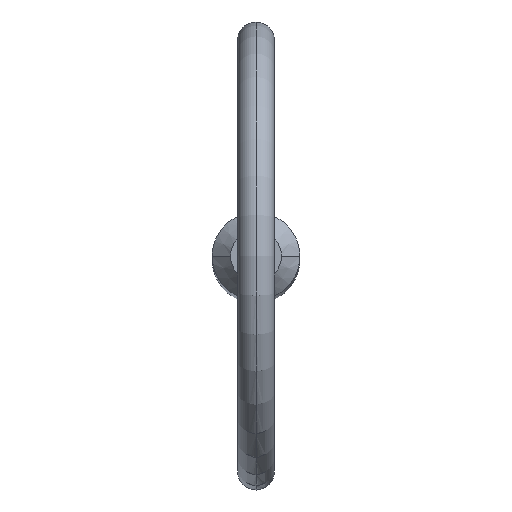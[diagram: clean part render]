
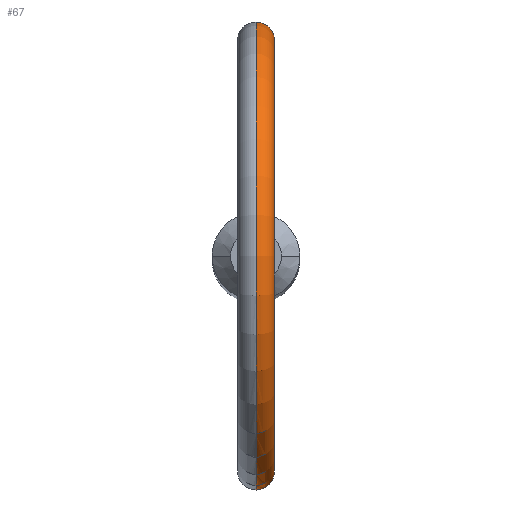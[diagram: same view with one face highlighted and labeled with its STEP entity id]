
A CAD part, top view. The second image highlights one B-rep face of the part: STEP entity #67.
In plain terms, the highlighted toroidal (fillet/blend) face has major radius 11.7 mm and minor radius 1 mm.
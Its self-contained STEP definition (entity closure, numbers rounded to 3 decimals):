
#6 = CARTESIAN_POINT ( 'NONE',  ( 0.509, 2.328, 93.524 ) ) ;
#11 = CARTESIAN_POINT ( 'NONE',  ( 0., 2.38, 91.625 ) ) ;
#15 = CARTESIAN_POINT ( 'NONE',  ( 0., 2.38, 93.668 ) ) ;
#22 = CARTESIAN_POINT ( 'NONE',  ( 0.615, -2.301, 93.444 ) ) ;
#24 = CARTESIAN_POINT ( 'NONE',  ( 0.865, -2.218, 93.14 ) ) ;
#25 = DIRECTION ( 'NONE',  ( 1., 0., 0. ) ) ;
#39 = CARTESIAN_POINT ( 'NONE',  ( 0.793, 2.246, 93.253 ) ) ;
#59 = DIRECTION ( 'NONE',  ( 0., 0., -1. ) ) ;
#67 = ADVANCED_FACE ( 'NONE', ( #365 ), #441, .T. ) ;
#76 = CARTESIAN_POINT ( 'NONE',  ( 1.003, 2.158, 92.497 ) ) ;
#90 = DIRECTION ( 'NONE',  ( 1., 0., 0. ) ) ;
#100 = CARTESIAN_POINT ( 'NONE',  ( 0.885, -2.21, 92.117 ) ) ;
#102 = CARTESIAN_POINT ( 'NONE',  ( 0.133, -2.38, 91.625 ) ) ;
#103 = B_SPLINE_CURVE_WITH_KNOTS ( 'NONE', 3,
 ( #287, #394, #178, #150, #391, #436, #182, #292, #76, #432, #219, #475, #39, #225, #6, #259, #410, #15 ),
 .UNSPECIFIED., .F., .F.,
 ( 4, 2, 2, 2, 2, 2, 2, 2, 4 ),
 ( 0.001, 0.001, 0.001, 0.002, 0.002, 0.003, 0.003, 0.003, 0.004 ),
 .UNSPECIFIED. ) ;
#109 = ORIENTED_EDGE ( 'NONE', *, *, #404, .T. ) ;
#111 = B_SPLINE_CURVE_WITH_KNOTS ( 'NONE', 3,
 ( #277, #245, #417, #145, #22, #308, #24, #173, #139, #143, #385, #100, #344, #199, #419, #309, #102, #457 ),
 .UNSPECIFIED., .F., .F.,
 ( 4, 2, 2, 2, 2, 2, 2, 2, 4 ),
 ( 0.003, 0.003, 0.003, 0.004, 0.004, 0.005, 0.005, 0.005, 0.006 ),
 .UNSPECIFIED. ) ;
#134 = VERTEX_POINT ( 'NONE', #11 ) ;
#139 = CARTESIAN_POINT ( 'NONE',  ( 0.996, -2.162, 92.764 ) ) ;
#143 = CARTESIAN_POINT ( 'NONE',  ( 1.003, -2.158, 92.499 ) ) ;
#145 = CARTESIAN_POINT ( 'NONE',  ( 0.508, -2.328, 93.524 ) ) ;
#150 = CARTESIAN_POINT ( 'NONE',  ( 0.513, 2.327, 91.749 ) ) ;
#153 = ORIENTED_EDGE ( 'NONE', *, *, #217, .F. ) ;
#158 = CIRCLE ( 'NONE', #473, 10.7 ) ;
#164 = CARTESIAN_POINT ( 'NONE',  ( 0., -2.38, 91.625 ) ) ;
#173 = CARTESIAN_POINT ( 'NONE',  ( 0.966, -2.176, 92.897 ) ) ;
#177 = ORIENTED_EDGE ( 'NONE', *, *, #295, .F. ) ;
#178 = CARTESIAN_POINT ( 'NONE',  ( 0.267, 2.368, 91.65 ) ) ;
#182 = CARTESIAN_POINT ( 'NONE',  ( 0.884, 2.21, 92.117 ) ) ;
#199 = CARTESIAN_POINT ( 'NONE',  ( 0.625, -2.299, 91.821 ) ) ;
#211 = VERTEX_POINT ( 'NONE', #164 ) ;
#217 = EDGE_CURVE ( 'NONE', #274, #211, #111, .T. ) ;
#219 = CARTESIAN_POINT ( 'NONE',  ( 0.966, 2.176, 92.897 ) ) ;
#222 = VERTEX_POINT ( 'NONE', #422 ) ;
#225 = CARTESIAN_POINT ( 'NONE',  ( 0.614, 2.301, 93.445 ) ) ;
#230 = DIRECTION ( 'NONE',  ( 1., 0., 0. ) ) ;
#245 = CARTESIAN_POINT ( 'NONE',  ( 0.134, -2.38, 93.668 ) ) ;
#255 = CIRCLE ( 'NONE', #369, 12.7 ) ;
#256 = ORIENTED_EDGE ( 'NONE', *, *, #266, .F. ) ;
#259 = CARTESIAN_POINT ( 'NONE',  ( 0.267, 2.368, 93.637 ) ) ;
#266 = EDGE_CURVE ( 'NONE', #134, #222, #103, .T. ) ;
#274 = VERTEX_POINT ( 'NONE', #380 ) ;
#277 = CARTESIAN_POINT ( 'NONE',  ( 0., -2.38, 93.668 ) ) ;
#287 = CARTESIAN_POINT ( 'NONE',  ( 0., 2.38, 91.625 ) ) ;
#291 = AXIS2_PLACEMENT_3D ( 'NONE', #370, #90, #443 ) ;
#292 = CARTESIAN_POINT ( 'NONE',  ( 0.981, 2.169, 92.362 ) ) ;
#295 = EDGE_CURVE ( 'NONE', #222, #274, #158, .T. ) ;
#308 = CARTESIAN_POINT ( 'NONE',  ( 0.793, -2.246, 93.252 ) ) ;
#309 = CARTESIAN_POINT ( 'NONE',  ( 0.268, -2.368, 91.651 ) ) ;
#315 = CARTESIAN_POINT ( 'NONE',  ( 0., 0., 104.1 ) ) ;
#336 = EDGE_LOOP ( 'NONE', ( #256, #109, #153, #177 ) ) ;
#344 = CARTESIAN_POINT ( 'NONE',  ( 0.811, -2.24, 92.006 ) ) ;
#365 = FACE_OUTER_BOUND ( 'NONE', #336, .T. ) ;
#369 = AXIS2_PLACEMENT_3D ( 'NONE', #315, #25, #59 ) ;
#370 = CARTESIAN_POINT ( 'NONE',  ( 0., 0., 104.1 ) ) ;
#380 = CARTESIAN_POINT ( 'NONE',  ( 0., -2.38, 93.668 ) ) ;
#385 = CARTESIAN_POINT ( 'NONE',  ( 0.981, -2.169, 92.364 ) ) ;
#391 = CARTESIAN_POINT ( 'NONE',  ( 0.625, 2.299, 91.821 ) ) ;
#394 = CARTESIAN_POINT ( 'NONE',  ( 0.133, 2.38, 91.625 ) ) ;
#404 = EDGE_CURVE ( 'NONE', #134, #211, #255, .T. ) ;
#410 = CARTESIAN_POINT ( 'NONE',  ( 0.134, 2.38, 93.668 ) ) ;
#416 = CARTESIAN_POINT ( 'NONE',  ( 0., 0., 104.1 ) ) ;
#417 = CARTESIAN_POINT ( 'NONE',  ( 0.268, -2.368, 93.637 ) ) ;
#419 = CARTESIAN_POINT ( 'NONE',  ( 0.513, -2.327, 91.748 ) ) ;
#422 = CARTESIAN_POINT ( 'NONE',  ( 0., 2.38, 93.668 ) ) ;
#432 = CARTESIAN_POINT ( 'NONE',  ( 0.996, 2.162, 92.764 ) ) ;
#436 = CARTESIAN_POINT ( 'NONE',  ( 0.811, 2.24, 92.006 ) ) ;
#441 = TOROIDAL_SURFACE ( 'NONE', #291, 11.7, 1. ) ;
#443 = DIRECTION ( 'NONE',  ( 0., 0., -1. ) ) ;
#445 = DIRECTION ( 'NONE',  ( 0., 0., -1. ) ) ;
#457 = CARTESIAN_POINT ( 'NONE',  ( 0., -2.38, 91.625 ) ) ;
#473 = AXIS2_PLACEMENT_3D ( 'NONE', #416, #230, #445 ) ;
#475 = CARTESIAN_POINT ( 'NONE',  ( 0.864, 2.218, 93.141 ) ) ;
